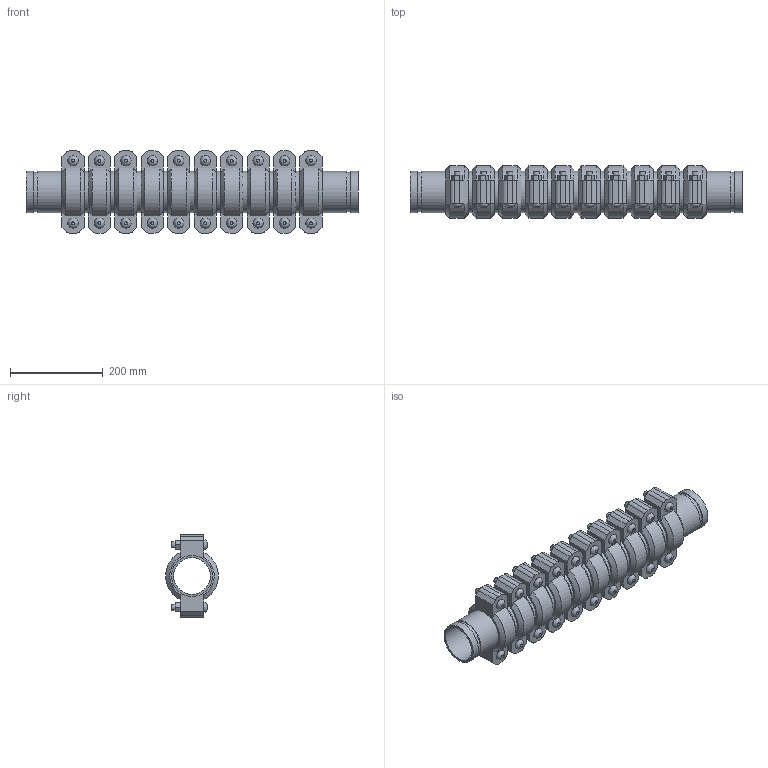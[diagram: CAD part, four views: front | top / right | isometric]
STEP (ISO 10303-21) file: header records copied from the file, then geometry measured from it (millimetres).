
FILE_DESCRIPTION(/* description */ ('VIC SS EXPANSION JOINT 10 COUPLINGS COMPRESSED STYLE 155P (OGS) (POTABLE WATER) ','CAx-IF Rec.Pracs.---Representation and Presentation of Product Manufacturing Information (PMI)---4.0---2014-10-13'),/* implementation_level */ '2;1');
FILE_NAME(/* name */ 'C:\Users\kkamble\AppData\Roaming\Autodesk\ApplicationPlugins\Victaulic.Temp\A563\Victaulic_SS_Expansion Joint_Compressed_10 Couplings_Style 155P (OGS)-Potable Water_10 Coup_Comp_3 (80).stp',/* time_stamp */ '2021-07-16T17:05:27+06:00',/* author */ ('kkamble'),/* organization */ ('Victaulic'),/* preprocessor_version */ 'ST-DEVELOPER v17.2',/* originating_system */ 'Autodesk Inventor 2019',/* authorisation */ '');
FILE_SCHEMA (('AP242_MANAGED_MODEL_BASED_3D_ENGINEERING_MIM_LF { 1 0 10303 442 1 1 4 }'));
Length unit declared in the file: inch
Products named in the file (4): 155P-03.0; Nipple-03.0; Nipple-03.0_1; 075-03.0
Assembly tree (21 placements, depth 2):
  155P-03.0
    Nipple-03.0  x2
    Nipple-03.0_1  x9
    075-03.0  x10
Bounding box: 717.55 x 113.88 x 177.8 mm (x, y, z)
Volume: 4133177.9 mm3; surface area: 1022083.9 mm2
Topology: 21 solids, 41 shells, 662 faces, 1600 edges, 1124 vertices
Faces by surface type: plane 406, cylinder 196, cone 40, bspline 20
Full cylindrical faces by diameter (mm): 12.7 x40, 14.605 x20, 79.35 x11, 84.938 x22, 88.9 x43
Entity records: 2769 total; most frequent: CARTESIAN_POINT 491, DIRECTION 467, ORIENTED_EDGE 374, AXIS2_PLACEMENT_3D 188, EDGE_CURVE 187, VERTEX_POINT 134, EDGE_LOOP 101, LINE 91
